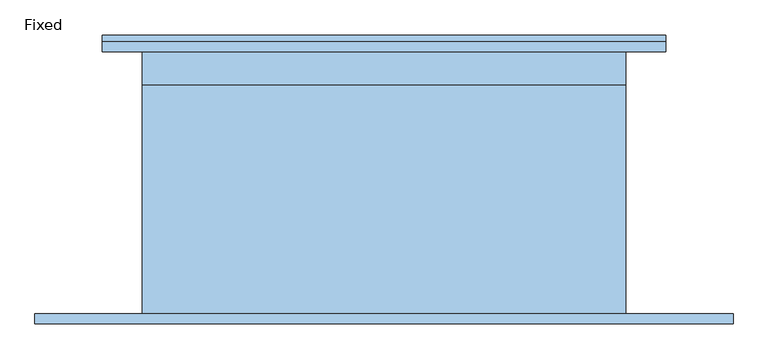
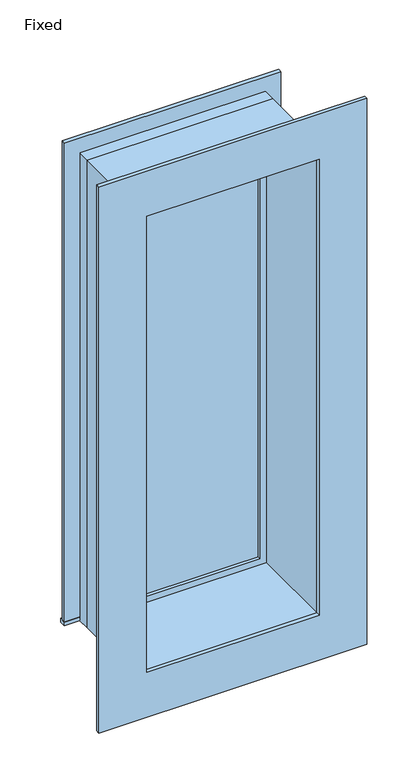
"""IFC4 building model written with IfcOpenShell, lengths in millimetres: window geometry."""

from ifc_helpers import new_model, si_unit, frame, origin, place, context, project, spatial, polyline, outline, extrude, source, transform, mapped, element, save


def fixed_153df27d(model_context):
    return source(origin(), model_context, "Body", "SweptSolid", [
        extrude(outline(polyline([(-571.5, 279.4), (495.3, 279.4), (495.3, 247.65), (-571.5, 247.65), (-571.5, 279.4)])), frame((0.0, 0.0, 304.8), z_axis=(0.0, 0.0, 1.0), x_axis=(1.0, 0.0, 0.0)), (0.0, 0.0, 1.0), 19.05),
        extrude(outline(polyline([(2724.15, -476.25), (2724.15, 400.05), (323.85, 400.05), (323.85, 495.3), (2819.4, 495.3), (2819.4, -571.5), (323.85, -571.5), (323.85, -476.25), (2724.15, -476.25)])), frame((0.0, 247.65, 0.0), z_axis=(0.0, 1.0, 0.0), x_axis=(0.0, 0.0, 1.0)), (0.0, 0.0, 1.0), 19.05),
        extrude(outline(polyline([(2946.4, 622.3), (2946.4, -698.5), (101.6, -698.5), (101.6, 622.3), (2946.4, 622.3)]), holes=[polyline([(2711.45, 387.35), (336.55, 387.35), (336.55, -463.55), (2711.45, -463.55), (2711.45, 387.35)])]), frame((0.0, -266.7, 0.0), z_axis=(0.0, 1.0, 0.0), x_axis=(0.0, 0.0, 1.0)), (0.0, 0.0, 1.0), 19.05),
        extrude(outline(polyline([(355.6, 200.025), (-431.8, 200.025), (-431.8, 212.725), (355.6, 212.725), (355.6, 200.025)])), frame((0.0, 0.0, 368.3), z_axis=(0.0, 0.0, 1.0), x_axis=(1.0, 0.0, 0.0)), (0.0, 0.0, 1.0), 2311.4),
        extrude(outline(polyline([(2724.15, -476.25), (323.85, -476.25), (323.85, 400.05), (2724.15, 400.05), (2724.15, -476.25)]), holes=[polyline([(2679.7, -431.8), (2679.7, 355.6), (368.3, 355.6), (368.3, -431.8), (2679.7, -431.8)])]), frame((0.0, 184.15, 0.0), z_axis=(0.0, 1.0, 0.0), x_axis=(0.0, 0.0, 1.0)), (0.0, 0.0, 1.0), 44.45),
        extrude(outline(polyline([(2743.2, -495.3), (304.8, -495.3), (304.8, 419.1), (2743.2, 419.1), (2743.2, -495.3)]), holes=[polyline([(2711.45, -463.55), (2711.45, 387.35), (336.55, 387.35), (336.55, -463.55), (2711.45, -463.55)])]), frame((0.0, -247.65, 0.0), z_axis=(0.0, 1.0, 0.0), x_axis=(0.0, 0.0, 1.0)), (0.0, 0.0, 1.0), 431.8),
        extrude(outline(polyline([(2743.2, 419.1), (2743.2, -495.3), (304.8, -495.3), (304.8, 419.1), (2743.2, 419.1)]), holes=[polyline([(2724.15, 400.05), (323.85, 400.05), (323.85, -476.25), (2724.15, -476.25), (2724.15, 400.05)])]), frame((0.0, 184.15, 0.0), z_axis=(0.0, 1.0, 0.0), x_axis=(0.0, 0.0, 1.0)), (0.0, 0.0, 1.0), 63.5),
    ])


if __name__ == "__main__":
    model = new_model("IFC4")
    model_context = context("Model", 3, world=origin())
    ifc_project = project(units=[si_unit("LENGTHUNIT", "METRE", prefix="MILLI")], contexts=[model_context])
    site = spatial("IfcSite", under=ifc_project)
    building = spatial("IfcBuilding", under=site)
    placement = place(None, origin())
    fixed_shape = fixed_153df27d(model_context)
    element("IfcWindow", 1, ObjectType="Fixed : 36\"w x 72\"h", at=placement, inside=building, context=model_context, shape_type="MappedRepresentation", body=[
        mapped(fixed_shape, transform((0.0, 0.0, 0.0), x_axis=(1.0, 0.0, 0.0), y_axis=(0.0, 1.0, 0.0), z_axis=(0.0, 0.0, 1.0))),
    ])
    save(model, "model.ifc")
